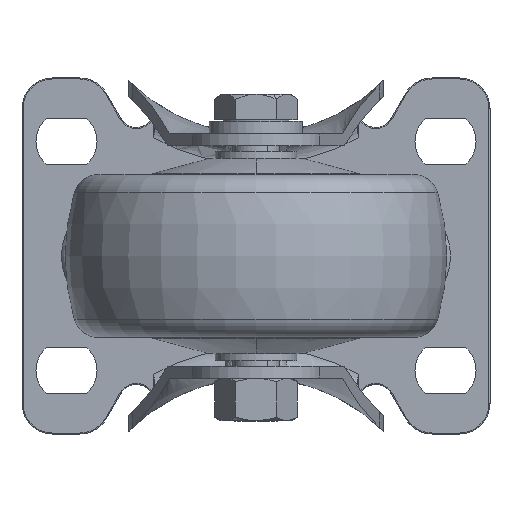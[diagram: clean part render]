
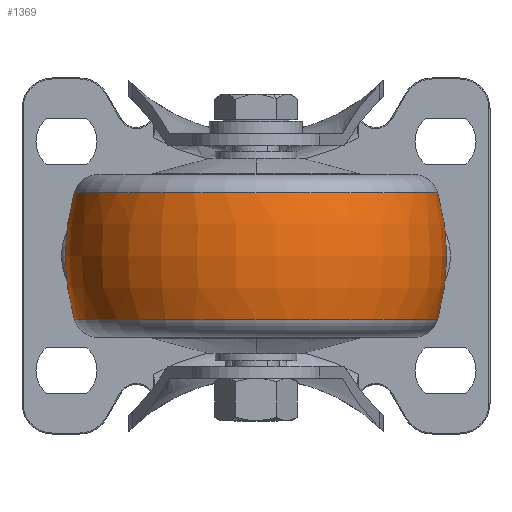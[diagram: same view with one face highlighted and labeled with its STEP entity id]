
A CAD part, front view. The second image highlights one B-rep face of the part: STEP entity #1369.
In plain terms, the highlighted toroidal (fillet/blend) face has major radius 6.667 mm and minor radius 44.167 mm.
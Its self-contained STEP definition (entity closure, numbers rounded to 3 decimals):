
#18 = ORIENTED_EDGE ( 'NONE', *, *, #5032, .F. ) ;
#780 = EDGE_CURVE ( 'NONE', #14768, #9812, #13131, .T. ) ;
#893 = DIRECTION ( 'NONE',  ( 0., 0., 1. ) ) ;
#1369 = ADVANCED_FACE ( 'NONE', ( #6289 ), #9625, .T. ) ;
#1995 = AXIS2_PLACEMENT_3D ( 'NONE', #9484, #5420, #8223 ) ;
#2362 = CARTESIAN_POINT ( 'NONE',  ( 12.404, 0., 0. ) ) ;
#2567 = CIRCLE ( 'NONE', #11269, 35.722 ) ;
#2834 = AXIS2_PLACEMENT_3D ( 'NONE', #6373, #3729, #13062 ) ;
#3173 = CARTESIAN_POINT ( 'NONE',  ( 0., 0., 6.667 ) ) ;
#3569 = ORIENTED_EDGE ( 'NONE', *, *, #13199, .F. ) ;
#3729 = DIRECTION ( 'NONE',  ( -1., 0., 0. ) ) ;
#3966 = AXIS2_PLACEMENT_3D ( 'NONE', #3173, #10833, #4294 ) ;
#4294 = DIRECTION ( 'NONE',  ( 0., 0., 1. ) ) ;
#5032 = EDGE_CURVE ( 'NONE', #12654, #9812, #2567, .T. ) ;
#5420 = DIRECTION ( 'NONE',  ( 0., -1., 0. ) ) ;
#5861 = ORIENTED_EDGE ( 'NONE', *, *, #780, .T. ) ;
#6289 = FACE_OUTER_BOUND ( 'NONE', #11958, .T. ) ;
#6291 = CARTESIAN_POINT ( 'NONE',  ( 12.404, 0., 35.722 ) ) ;
#6373 = CARTESIAN_POINT ( 'NONE',  ( 0., 0., 0. ) ) ;
#6374 = DIRECTION ( 'NONE',  ( -1., 0., 0. ) ) ;
#6734 = EDGE_CURVE ( 'NONE', #8026, #14768, #16169, .T. ) ;
#6974 = AXIS2_PLACEMENT_3D ( 'NONE', #2362, #6374, #8931 ) ;
#7827 = DIRECTION ( 'NONE',  ( -1., 0., 0. ) ) ;
#8026 = VERTEX_POINT ( 'NONE', #15651 ) ;
#8223 = DIRECTION ( 'NONE',  ( 0., 0., -1. ) ) ;
#8931 = DIRECTION ( 'NONE',  ( 0., 0., 1. ) ) ;
#9484 = CARTESIAN_POINT ( 'NONE',  ( 0., 0., -6.667 ) ) ;
#9625 = TOROIDAL_SURFACE ( 'NONE', #2834, -6.667, 44.167 ) ;
#9674 = CIRCLE ( 'NONE', #3966, 44.167 ) ;
#9812 = VERTEX_POINT ( 'NONE', #14064 ) ;
#10345 = CARTESIAN_POINT ( 'NONE',  ( -12.404, 0., 0. ) ) ;
#10833 = DIRECTION ( 'NONE',  ( 0., 1., 0. ) ) ;
#10899 = ORIENTED_EDGE ( 'NONE', *, *, #6734, .T. ) ;
#11269 = AXIS2_PLACEMENT_3D ( 'NONE', #10345, #7827, #893 ) ;
#11958 = EDGE_LOOP ( 'NONE', ( #3569, #10899, #5861, #18 ) ) ;
#12654 = VERTEX_POINT ( 'NONE', #12804 ) ;
#12804 = CARTESIAN_POINT ( 'NONE',  ( -12.404, 0., -35.722 ) ) ;
#13062 = DIRECTION ( 'NONE',  ( 0., 0., 1. ) ) ;
#13131 = CIRCLE ( 'NONE', #1995, 44.167 ) ;
#13199 = EDGE_CURVE ( 'NONE', #8026, #12654, #9674, .T. ) ;
#14064 = CARTESIAN_POINT ( 'NONE',  ( -12.404, 0., 35.722 ) ) ;
#14768 = VERTEX_POINT ( 'NONE', #6291 ) ;
#15651 = CARTESIAN_POINT ( 'NONE',  ( 12.404, 0., -35.722 ) ) ;
#16169 = CIRCLE ( 'NONE', #6974, 35.722 ) ;
